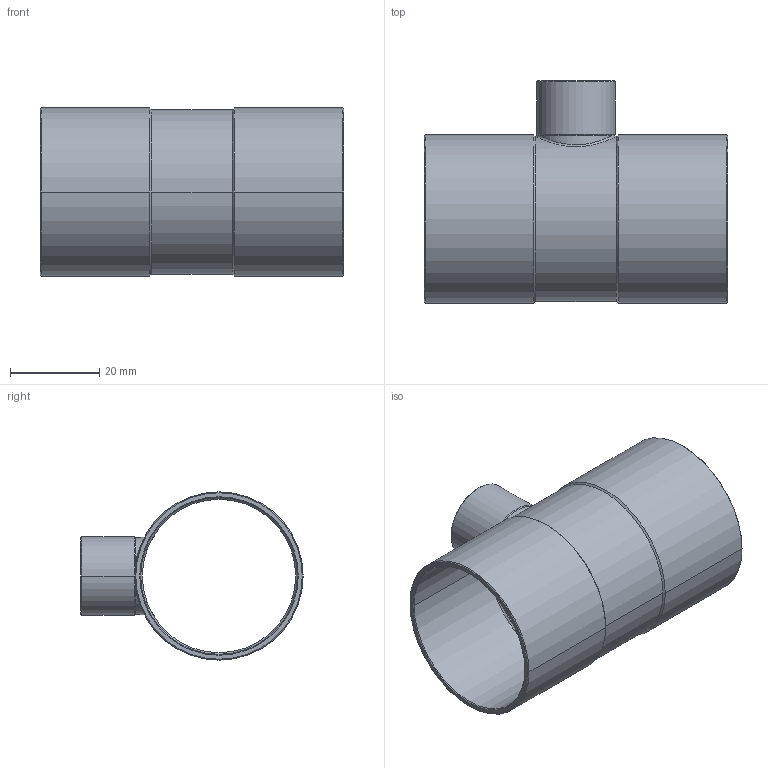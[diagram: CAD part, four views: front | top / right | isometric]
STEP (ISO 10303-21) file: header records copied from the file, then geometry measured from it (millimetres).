
FILE_DESCRIPTION((''),'2;1');
FILE_NAME('G:\Technics\CAD\Bauteile\15130\15130351535.stp','2005-11-02T10:19:48',('boden'),(''),'Autodesk Inventor 8','Autodesk Inventor 8','');
FILE_SCHEMA(('AUTOMOTIVE_DESIGN { 1 0 10303 214 1 1 1 1 }'));
Length unit declared in the file: millimetre
Products named in the file (1): 15130351535
Bounding box: 68 x 49.88 x 37.75 mm (x, y, z)
Volume: 10768.3 mm3; surface area: 16874.8 mm2
Topology: 1 solids, 1 shells, 49 faces, 112 edges, 64 vertices
Faces by surface type: cone 24, cylinder 20, plane 3, bspline 2
Entity records: 1766 total; most frequent: CARTESIAN_POINT 643, DIRECTION 238, ORIENTED_EDGE 224, EDGE_CURVE 112, AXIS2_PLACEMENT_3D 98, VERTEX_POINT 64, EDGE_LOOP 52, CIRCLE 50
